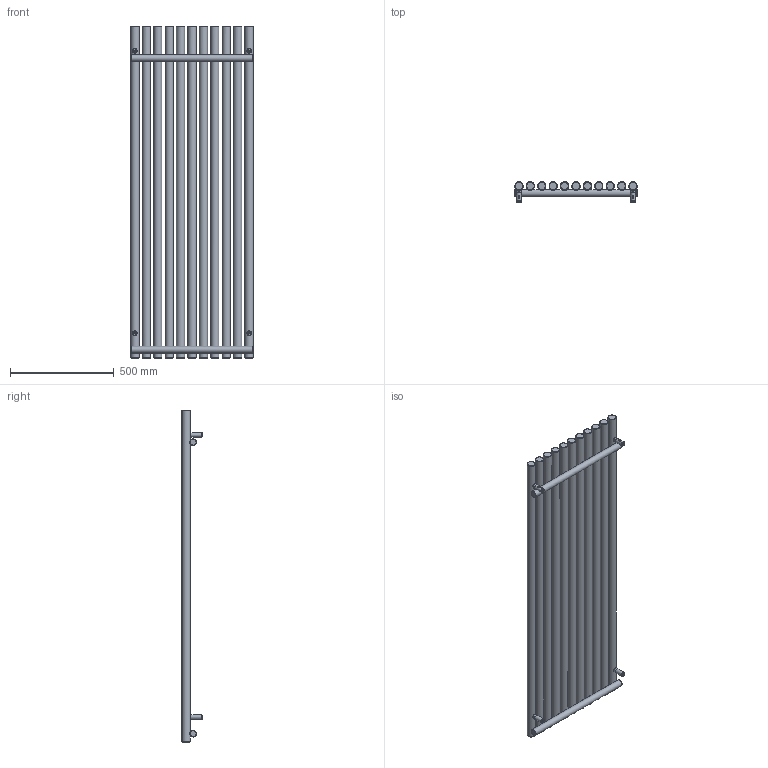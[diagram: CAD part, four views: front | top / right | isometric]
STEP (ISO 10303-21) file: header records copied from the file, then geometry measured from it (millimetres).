
FILE_DESCRIPTION(/* description */ (''),/* implementation_level */ '2;1');
FILE_NAME(/* name */ 'Z:\R\G\P\RGP116 - Grzejniki Geyser\Work\Inventor\Circolo (Rolo V, Rolo H)\ROLO-ROOM\Marketing\Bryły 3D\Zaokrąglone\WLROR160059-ES-CK-(Z).stp',/* time_stamp */ '2024-03-29T15:53:19+01:00',/* author */ ('NowAd'),/* organization */ (''),/* preprocessor_version */ 'ST-DEVELOPER v17.2',/* originating_system */ 'Autodesk Inventor 2019',/* authorisation */ '');
FILE_SCHEMA (('AUTOMOTIVE_DESIGN { 1 0 10303 214 3 1 1 }'));
Length unit declared in the file: millimetre
Products named in the file (3): WLROR160059-ES-CK-(Z); PGROR160059-ES-CK-(K); CK-V-fi40 marketing
Assembly tree (5 placements, depth 2):
  WLROR160059-ES-CK-(Z)
    PGROR160059-ES-CK-(K)
    CK-V-fi40 marketing  x4
Bounding box: 590 x 96.5 x 1600 mm (x, y, z)
Volume: 23104166.7 mm3; surface area: 2378053.7 mm2
Topology: 5 solids, 5 shells, 359 faces, 889 edges, 594 vertices
Faces by surface type: plane 144, cylinder 79, cone 60, torus 54, bspline 22
Full cylindrical faces by diameter (mm): 4.134 x4, 4.48 x4, 6.4 x4, 10 x4, 12 x4, 15.834 x4, 16 x4, 18.631 x2, 22 x4, 32 x2, 40 x11
Entity records: 10090 total; most frequent: CARTESIAN_POINT 5936, DIRECTION 862, ORIENTED_EDGE 816, EDGE_CURVE 408, AXIS2_PLACEMENT_3D 391, VERTEX_POINT 276, EDGE_LOOP 238, CIRCLE 221
